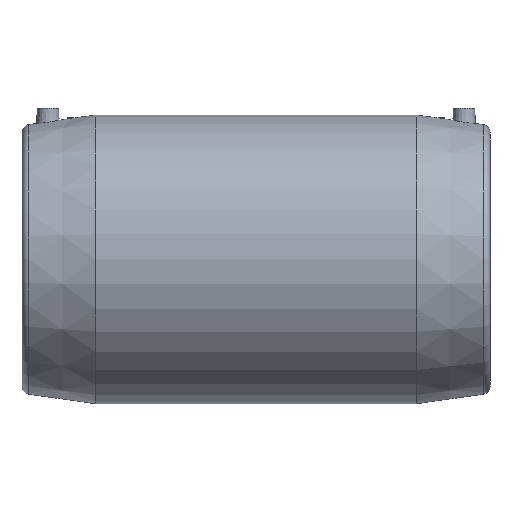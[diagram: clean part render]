
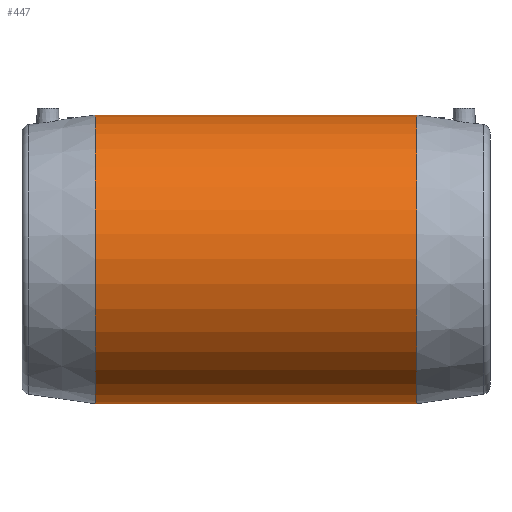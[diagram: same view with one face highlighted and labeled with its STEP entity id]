
A CAD part, front view. The second image highlights one B-rep face of the part: STEP entity #447.
In plain terms, the highlighted cylindrical face has radius 128 mm (diameter 256 mm), a full revolution.
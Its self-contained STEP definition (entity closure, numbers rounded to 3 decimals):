
#48=CYLINDRICAL_SURFACE('',#513,128.);
#60=B_SPLINE_CURVE_WITH_KNOTS('',3,(#859,#860,#861,#862,#863,#864,#865,
#866,#867,#868,#869,#870,#871,#872,#873,#874,#875,#876,#877,#878,#879,#880,
#881,#882,#883,#884,#885,#886,#887,#888,#889,#890,#891,#892,#893,#894,#895,
#896,#897,#898,#899,#900,#901,#902,#903,#904,#905,#906,#907,#908,#909,#910,
#911,#912,#913,#914,#915,#916,#917,#918,#919,#920),.UNSPECIFIED.,.T.,.F.,
(1,1,1,1,1,1,1,1,1,1,1,1,1,1,1,1,1,1,1,1,1,1,1,1,1,1,1,1,1,1,1,1,1,1,1,
1,1,1,1,1,1,1,1,1,1,1,1,1,1,1,1,1,1,1,1,1,1,1,1,1,1,1,1,1,1,1),(-0.016,
-0.01,-0.005,0.,0.005,
0.01,0.016,0.021,0.026,
0.031,0.037,0.042,0.047,
0.052,0.063,0.068,0.073,
0.078,0.084,0.089,0.094,
0.099,0.105,0.115,0.12,
0.126,0.131,0.136,0.141,
0.146,0.152,0.157,0.162,
0.167,0.173,0.178,0.188,
0.194,0.199,0.204,0.209,
0.214,0.22,0.225,0.23,
0.241,0.246,0.251,0.256,
0.262,0.267,0.272,0.277,
0.282,0.293,0.298,0.303,
0.309,0.314,0.319,0.324,
0.33,0.335,0.34,0.345,
0.351),.UNSPECIFIED.);
#105=ORIENTED_EDGE('',*,*,#181,.T.);
#106=ORIENTED_EDGE('',*,*,#168,.F.);
#107=ORIENTED_EDGE('',*,*,#180,.T.);
#168=EDGE_CURVE('',#213,#213,#250,.T.);
#180=EDGE_CURVE('',#225,#225,#259,.T.);
#181=EDGE_CURVE('',#226,#226,#60,.T.);
#213=VERTEX_POINT('',#773);
#225=VERTEX_POINT('',#857);
#226=VERTEX_POINT('',#921);
#250=CIRCLE('',#497,128.);
#259=CIRCLE('',#512,128.);
#306=EDGE_LOOP('',(#105));
#307=EDGE_LOOP('',(#106));
#308=EDGE_LOOP('',(#107));
#378=FACE_BOUND('',#306,.T.);
#379=FACE_BOUND('',#307,.T.);
#380=FACE_BOUND('',#308,.T.);
#447=ADVANCED_FACE('',(#378,#379,#380),#48,.T.);
#497=AXIS2_PLACEMENT_3D('',#772,#578,#579);
#512=AXIS2_PLACEMENT_3D('',#856,#610,#611);
#513=AXIS2_PLACEMENT_3D('',#858,#612,#613);
#578=DIRECTION('',(-1.,0.,0.));
#579=DIRECTION('',(0.,0.,1.));
#610=DIRECTION('',(-1.,0.,0.));
#611=DIRECTION('',(0.,0.,1.));
#612=DIRECTION('',(-1.,0.,0.));
#613=DIRECTION('',(0.,0.,1.));
#772=CARTESIAN_POINT('',(-142.5,0.,0.));
#773=CARTESIAN_POINT('',(-142.5,0.,128.));
#856=CARTESIAN_POINT('',(142.5,0.,0.));
#857=CARTESIAN_POINT('',(142.5,0.,128.));
#858=CARTESIAN_POINT('',(-60.,0.,0.));
#859=CARTESIAN_POINT('',(53.809,127.926,-5.299));
#860=CARTESIAN_POINT('',(54.095,128.037,0.009));
#861=CARTESIAN_POINT('',(53.81,127.927,5.263));
#862=CARTESIAN_POINT('',(52.983,127.611,10.412));
#863=CARTESIAN_POINT('',(51.6,127.091,15.502));
#864=CARTESIAN_POINT('',(49.722,126.404,20.337));
#865=CARTESIAN_POINT('',(47.381,125.579,24.92));
#866=CARTESIAN_POINT('',(44.558,124.629,29.289));
#867=CARTESIAN_POINT('',(41.346,123.612,33.305));
#868=CARTESIAN_POINT('',(37.786,122.565,36.963));
#869=CARTESIAN_POINT('',(33.857,121.509,40.289));
#870=CARTESIAN_POINT('',(28.186,120.149,44.216));
#871=CARTESIAN_POINT('',(22.094,118.963,47.273));
#872=CARTESIAN_POINT('',(15.465,118.042,49.507));
#873=CARTESIAN_POINT('',(10.398,117.533,50.698));
#874=CARTESIAN_POINT('',(5.257,117.219,51.417));
#875=CARTESIAN_POINT('',(0.023,117.11,51.664));
#876=CARTESIAN_POINT('',(-5.258,117.219,51.419));
#877=CARTESIAN_POINT('',(-10.41,117.534,50.695));
#878=CARTESIAN_POINT('',(-15.476,118.043,49.504));
#879=CARTESIAN_POINT('',(-22.107,118.965,47.268));
#880=CARTESIAN_POINT('',(-28.221,120.156,44.198));
#881=CARTESIAN_POINT('',(-33.907,121.522,40.251));
#882=CARTESIAN_POINT('',(-37.815,122.573,36.935));
#883=CARTESIAN_POINT('',(-41.373,123.62,33.276));
#884=CARTESIAN_POINT('',(-44.592,124.64,29.24));
#885=CARTESIAN_POINT('',(-47.401,125.585,24.885));
#886=CARTESIAN_POINT('',(-49.732,126.408,20.312));
#887=CARTESIAN_POINT('',(-51.601,127.091,15.496));
#888=CARTESIAN_POINT('',(-52.987,127.612,10.403));
#889=CARTESIAN_POINT('',(-53.818,127.93,5.198));
#890=CARTESIAN_POINT('',(-54.091,128.035,0.));
#891=CARTESIAN_POINT('',(-53.817,127.929,-5.223));
#892=CARTESIAN_POINT('',(-52.694,127.5,-12.187));
#893=CARTESIAN_POINT('',(-50.54,126.693,-18.728));
#894=CARTESIAN_POINT('',(-47.368,125.574,-24.944));
#895=CARTESIAN_POINT('',(-44.577,124.636,-29.258));
#896=CARTESIAN_POINT('',(-41.387,123.625,-33.262));
#897=CARTESIAN_POINT('',(-37.773,122.561,-36.977));
#898=CARTESIAN_POINT('',(-33.856,121.509,-40.287));
#899=CARTESIAN_POINT('',(-29.658,120.501,-43.201));
#900=CARTESIAN_POINT('',(-25.16,119.56,-45.733));
#901=CARTESIAN_POINT('',(-18.803,118.448,-48.553));
#902=CARTESIAN_POINT('',(-12.203,117.645,-50.441));
#903=CARTESIAN_POINT('',(-5.234,117.217,-51.422));
#904=CARTESIAN_POINT('',(0.003,117.111,-51.662));
#905=CARTESIAN_POINT('',(5.203,117.217,-51.423));
#906=CARTESIAN_POINT('',(10.397,117.532,-50.7));
#907=CARTESIAN_POINT('',(15.513,118.048,-49.492));
#908=CARTESIAN_POINT('',(20.414,118.729,-47.84));
#909=CARTESIAN_POINT('',(25.146,119.557,-45.74));
#910=CARTESIAN_POINT('',(31.191,120.822,-42.336));
#911=CARTESIAN_POINT('',(36.585,122.212,-38.198));
#912=CARTESIAN_POINT('',(41.407,123.63,-33.24));
#913=CARTESIAN_POINT('',(44.598,124.643,-29.228));
#914=CARTESIAN_POINT('',(47.375,125.577,-24.928));
#915=CARTESIAN_POINT('',(49.738,126.41,-20.307));
#916=CARTESIAN_POINT('',(51.624,127.1,-15.425));
#917=CARTESIAN_POINT('',(52.975,127.608,-10.433));
#918=CARTESIAN_POINT('',(53.809,127.926,-5.299));
#919=CARTESIAN_POINT('',(54.095,128.037,0.009));
#920=CARTESIAN_POINT('',(53.81,127.927,5.263));
#921=CARTESIAN_POINT('',(54.,128.,0.));
